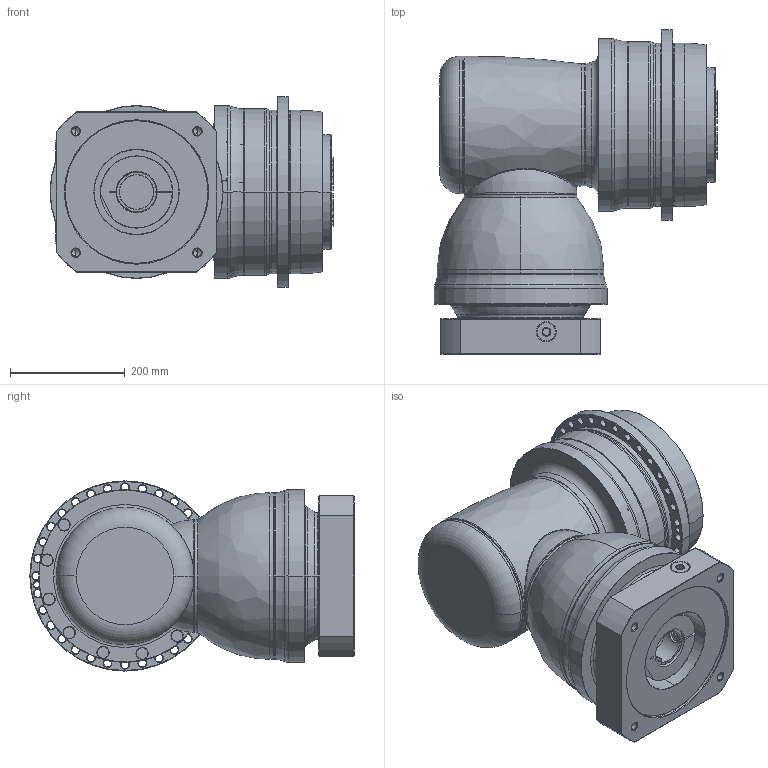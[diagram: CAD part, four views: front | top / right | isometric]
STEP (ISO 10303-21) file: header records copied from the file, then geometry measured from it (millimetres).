
FILE_DESCRIPTION((''),'2;1');
FILE_NAME('APCK285_2ST_SBG_60-P0409D00201_ASM','2018-05-21T',('d01226'),(''),'PRO/ENGINEER BY PARAMETRIC TECHNOLOGY CORPORATION, 2008410','PRO/ENGINEER BY PARAMETRIC TECHNOLOGY CORPORATION, 2008410','');
FILE_SCHEMA(('CONFIG_CONTROL_DESIGN'));
Length unit declared in the file: millimetre
Products named in the file (13): P0278801003; P03598G0103; P1211800001; P1802810001; P1018800002; P1365800001; P1007801001; P1318810501; P0409D00201; P0503D00016; P0912805001; 21711426021; APCK285_2ST_SBG_60-P0409D00201_ASM
Assembly tree (12 placements, depth 2):
  APCK285_2ST_SBG_60-P0409D00201_ASM
    P0278801003
    P03598G0103
    P1211800001
    P1802810001
    P1018800002
    P1365800001
    P1007801001
    P1318810501
    P0409D00201
    P0503D00016
    P0912805001
    21711426021
Bounding box: 495.6 x 566 x 332 mm (x, y, z)
Volume: 41631271.5 mm3; surface area: 2115926.3 mm2
Topology: 13 solids, 25 shells, 966 faces, 2295 edges, 1415 vertices
Faces by surface type: cone 304, cylinder 300, plane 185, torus 146, bspline 30, sphere 1
Entity records: 35238 total; most frequent: CARTESIAN_POINT 12204, DIRECTION 5191, ORIENTED_EDGE 4512, AXIS2_PLACEMENT_3D 2288, EDGE_CURVE 2281, VERTEX_POINT 1415, CIRCLE 1315, EDGE_LOOP 1124
